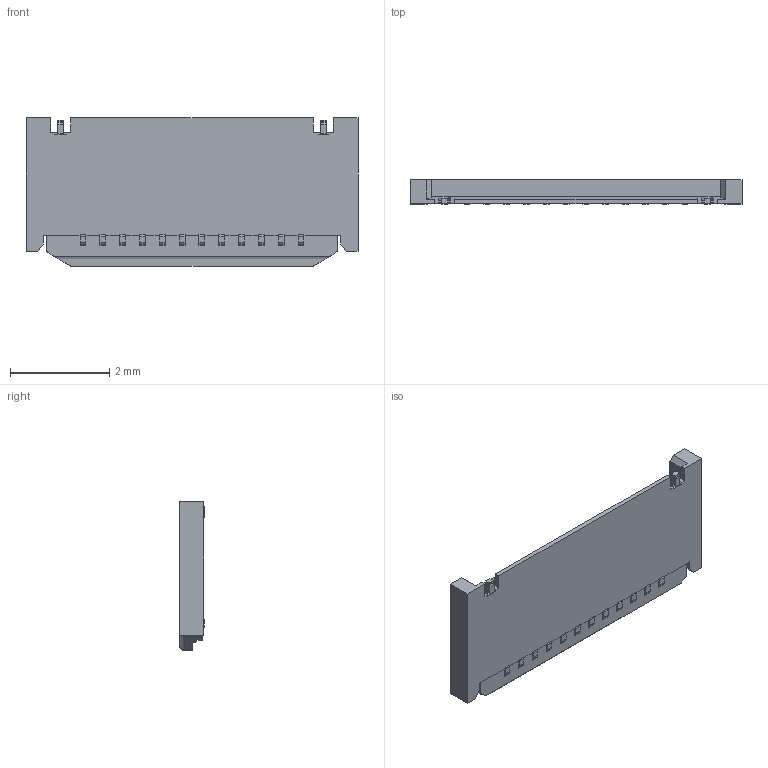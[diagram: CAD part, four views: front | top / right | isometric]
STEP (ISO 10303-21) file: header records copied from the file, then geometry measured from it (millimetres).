
FILE_DESCRIPTION (( 'STEP AP203' ), '1' );
FILE_NAME ('20588-012E-01 ACT CLOSE ASSY STEP R5 ALL.STEP', '2015-08-06T06:50:34', ( 'kaihatsu-3dcad-3' ), ( '' ), 'SwSTEP 2.0', 'SolidWorks 2012', '' );
FILE_SCHEMA (( 'CONFIG_CONTROL_DESIGN' ));
Length unit declared in the file: millimetre
Products named in the file (1): 20588-012E-01 ACT CLOSE ASSY STEP R5 ALL
Bounding box: 6.7 x 0.5 x 3 mm (x, y, z)
Volume: 8.4 mm3; surface area: 49 mm2
Topology: 1 solids, 1 shells, 176 faces, 516 edges, 342 vertices
Faces by surface type: plane 123, cylinder 51, bspline 2
Entity records: 5909 total; most frequent: CARTESIAN_POINT 1077, ORIENTED_EDGE 1032, DIRECTION 960, EDGE_CURVE 516, LINE 414, VECTOR 414, VERTEX_POINT 342, AXIS2_PLACEMENT_3D 273
